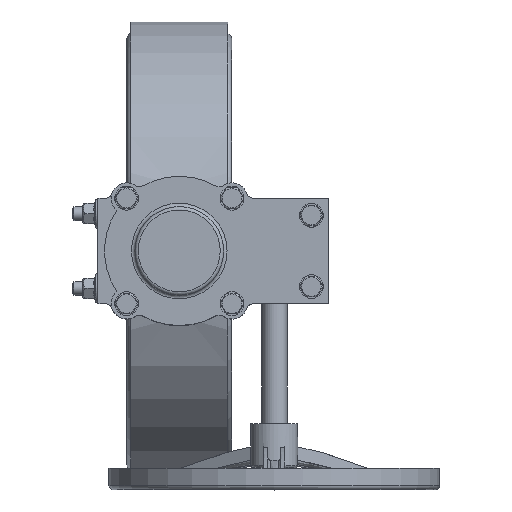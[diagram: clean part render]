
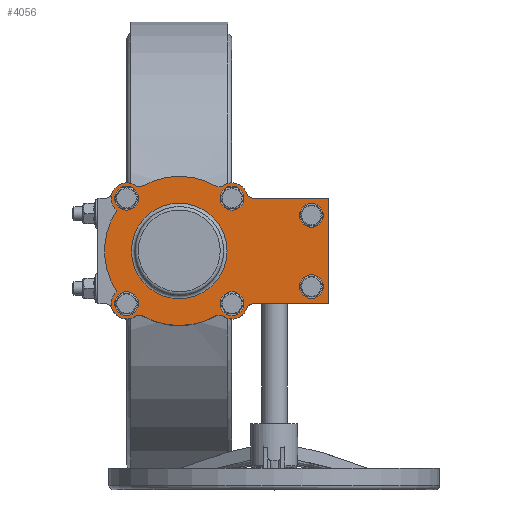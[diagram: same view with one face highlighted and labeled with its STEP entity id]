
A CAD part, top view. The second image highlights one B-rep face of the part: STEP entity #4056.
In plain terms, the highlighted planar face has unit normal (0, 0, 1).
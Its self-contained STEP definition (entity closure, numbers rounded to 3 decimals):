
#4056=ADVANCED_FACE('',(#8280,#8282,#8284,#8286,#8288,#8290,#8292,#8294),#8296,.T.);
#8280=FACE_BOUND('',#8281,.T.);
#8281=EDGE_LOOP('',(#15163,#15164,#15165,#15166,#15167,#15168,#15169,#15170,#15171,
#15172,#15173,#15174,#15175,#15176,#15177,#15178));
#8282=FACE_BOUND('',#8283,.T.);
#8283=EDGE_LOOP('',(#15179));
#8284=FACE_BOUND('',#8285,.T.);
#8285=EDGE_LOOP('',(#15180));
#8286=FACE_BOUND('',#8287,.T.);
#8287=EDGE_LOOP('',(#15181));
#8288=FACE_BOUND('',#8289,.T.);
#8289=EDGE_LOOP('',(#15182));
#8290=FACE_BOUND('',#8291,.T.);
#8291=EDGE_LOOP('',(#15183));
#8292=FACE_BOUND('',#8293,.T.);
#8293=EDGE_LOOP('',(#15184));
#8294=FACE_BOUND('',#8295,.T.);
#8295=EDGE_LOOP('',(#15185));
#8296=PLANE('',#8297);
#8297=AXIS2_PLACEMENT_3D('',#8298,#8299,#8300);
#8298=CARTESIAN_POINT('',(0.,0.,8.));
#8299=DIRECTION('',(0.,0.,1.));
#8300=DIRECTION('',(0.,1.,0.));
#15163=ORIENTED_EDGE('',*,*,#17054,.T.);
#15164=ORIENTED_EDGE('',*,*,#17055,.T.);
#15165=ORIENTED_EDGE('',*,*,#17056,.T.);
#15166=ORIENTED_EDGE('',*,*,#17057,.T.);
#15167=ORIENTED_EDGE('',*,*,#17058,.T.);
#15168=ORIENTED_EDGE('',*,*,#17059,.T.);
#15169=ORIENTED_EDGE('',*,*,#17060,.T.);
#15170=ORIENTED_EDGE('',*,*,#17061,.T.);
#15171=ORIENTED_EDGE('',*,*,#17062,.T.);
#15172=ORIENTED_EDGE('',*,*,#17063,.T.);
#15173=ORIENTED_EDGE('',*,*,#17064,.T.);
#15174=ORIENTED_EDGE('',*,*,#17065,.T.);
#15175=ORIENTED_EDGE('',*,*,#17066,.T.);
#15176=ORIENTED_EDGE('',*,*,#17067,.T.);
#15177=ORIENTED_EDGE('',*,*,#17068,.T.);
#15178=ORIENTED_EDGE('',*,*,#17069,.T.);
#15179=ORIENTED_EDGE('',*,*,#17070,.T.);
#15180=ORIENTED_EDGE('',*,*,#17071,.T.);
#15181=ORIENTED_EDGE('',*,*,#17072,.T.);
#15182=ORIENTED_EDGE('',*,*,#17073,.T.);
#15183=ORIENTED_EDGE('',*,*,#17074,.T.);
#15184=ORIENTED_EDGE('',*,*,#17075,.T.);
#15185=ORIENTED_EDGE('',*,*,#17076,.F.);
#17054=EDGE_CURVE('',#19401,#19402,#19403,.T.);
#17055=EDGE_CURVE('',#19402,#19404,#19405,.T.);
#17056=EDGE_CURVE('',#19404,#19406,#19407,.T.);
#17057=EDGE_CURVE('',#19406,#19408,#19409,.T.);
#17058=EDGE_CURVE('',#19408,#19410,#19411,.T.);
#17059=EDGE_CURVE('',#19410,#19412,#19413,.T.);
#17060=EDGE_CURVE('',#19412,#19414,#19415,.T.);
#17061=EDGE_CURVE('',#19414,#19416,#19417,.T.);
#17062=EDGE_CURVE('',#19416,#19418,#19419,.T.);
#17063=EDGE_CURVE('',#19418,#19420,#19421,.T.);
#17064=EDGE_CURVE('',#19420,#19422,#19423,.T.);
#17065=EDGE_CURVE('',#19422,#19424,#19425,.T.);
#17066=EDGE_CURVE('',#19424,#19426,#19427,.T.);
#17067=EDGE_CURVE('',#19426,#19428,#19429,.T.);
#17068=EDGE_CURVE('',#19428,#19430,#19431,.T.);
#17069=EDGE_CURVE('',#19430,#19401,#19432,.T.);
#17070=EDGE_CURVE('',#19433,#19433,#19434,.F.);
#17071=EDGE_CURVE('',#19435,#19435,#19436,.F.);
#17072=EDGE_CURVE('',#19437,#19437,#19438,.F.);
#17073=EDGE_CURVE('',#19439,#19439,#19440,.F.);
#17074=EDGE_CURVE('',#19441,#19441,#19442,.F.);
#17075=EDGE_CURVE('',#19443,#19443,#19444,.F.);
#17076=EDGE_CURVE('',#19445,#19445,#19446,.T.);
#19401=VERTEX_POINT('',#27149);
#19402=VERTEX_POINT('',#27150);
#19403=CIRCLE('',#27151,8.);
#19404=VERTEX_POINT('',#27155);
#19405=CIRCLE('',#27156,18.);
#19406=VERTEX_POINT('',#27160);
#19407=CIRCLE('',#27161,8.);
#19408=VERTEX_POINT('',#27165);
#19409=LINE('',#27166,#27167);
#19410=VERTEX_POINT('',#27169);
#19411=LINE('',#27170,#27171);
#19412=VERTEX_POINT('',#27173);
#19413=LINE('',#27174,#27175);
#19414=VERTEX_POINT('',#27177);
#19415=CIRCLE('',#27178,8.);
#19416=VERTEX_POINT('',#27182);
#19417=CIRCLE('',#27183,18.);
#19418=VERTEX_POINT('',#27187);
#19419=CIRCLE('',#27188,8.);
#19420=VERTEX_POINT('',#27192);
#19421=CIRCLE('',#27193,87.5);
#19422=VERTEX_POINT('',#27197);
#19423=CIRCLE('',#27198,8.);
#19424=VERTEX_POINT('',#27202);
#19425=CIRCLE('',#27203,18.);
#19426=VERTEX_POINT('',#27207);
#19427=CIRCLE('',#27208,87.5);
#19428=VERTEX_POINT('',#27212);
#19429=CIRCLE('',#27213,18.);
#19430=VERTEX_POINT('',#27217);
#19431=CIRCLE('',#27218,8.);
#19432=CIRCLE('',#27222,87.5);
#19433=VERTEX_POINT('',#27226);
#19434=CIRCLE('',#27227,8.);
#19435=VERTEX_POINT('',#27231);
#19436=CIRCLE('',#27232,8.);
#19437=VERTEX_POINT('',#27236);
#19438=CIRCLE('',#27237,8.);
#19439=VERTEX_POINT('',#27241);
#19440=CIRCLE('',#27242,8.);
#19441=VERTEX_POINT('',#27246);
#19442=CIRCLE('',#27247,8.);
#19443=VERTEX_POINT('',#27251);
#19444=CIRCLE('',#27252,8.);
#19445=VERTEX_POINT('',#27256);
#19446=CIRCLE('',#27257,56.);
#27149=CARTESIAN_POINT('',(76.196,43.016,8.));
#27150=CARTESIAN_POINT('',(76.612,51.541,8.));
#27151=AXIS2_PLACEMENT_3D('',#27152,#27153,#27154);
#27152=CARTESIAN_POINT('',(83.163,46.949,8.));
#27153=DIRECTION('',(0.,0.,-1.));
#27154=DIRECTION('',(-0.871,-0.492,0.));
#27155=CARTESIAN_POINT('',(67.41,78.999,8.));
#27156=AXIS2_PLACEMENT_3D('',#27157,#27158,#27159);
#27157=CARTESIAN_POINT('',(61.872,61.872,8.));
#27158=DIRECTION('',(0.,0.,1.));
#27159=DIRECTION('',(0.819,-0.574,0.));
#27160=CARTESIAN_POINT('',(61.872,86.61,8.));
#27161=AXIS2_PLACEMENT_3D('',#27162,#27163,#27164);
#27162=CARTESIAN_POINT('',(69.872,86.61,8.));
#27163=DIRECTION('',(0.,0.,-1.));
#27164=DIRECTION('',(-0.308,-0.951,0.));
#27165=CARTESIAN_POINT('',(61.872,175.,8.));
#27166=CARTESIAN_POINT('',(61.872,86.61,8.));
#27167=VECTOR('',#27168,1.);
#27168=DIRECTION('',(0.,1.,0.));
#27169=CARTESIAN_POINT('',(-61.872,175.,8.));
#27170=CARTESIAN_POINT('',(61.872,175.,8.));
#27171=VECTOR('',#27172,1.);
#27172=DIRECTION('',(-1.,0.,0.));
#27173=CARTESIAN_POINT('',(-61.872,86.61,8.));
#27174=CARTESIAN_POINT('',(-61.872,175.,8.));
#27175=VECTOR('',#27176,1.);
#27176=DIRECTION('',(0.,-1.,0.));
#27177=CARTESIAN_POINT('',(-67.41,78.999,8.));
#27178=AXIS2_PLACEMENT_3D('',#27179,#27180,#27181);
#27179=CARTESIAN_POINT('',(-69.872,86.61,8.));
#27180=DIRECTION('',(0.,0.,-1.));
#27181=DIRECTION('',(1.,0.,0.));
#27182=CARTESIAN_POINT('',(-76.612,51.541,8.));
#27183=AXIS2_PLACEMENT_3D('',#27184,#27185,#27186);
#27184=CARTESIAN_POINT('',(-61.872,61.872,8.));
#27185=DIRECTION('',(0.,0.,1.));
#27186=DIRECTION('',(-0.308,0.951,0.));
#27187=CARTESIAN_POINT('',(-76.196,43.016,8.));
#27188=AXIS2_PLACEMENT_3D('',#27189,#27190,#27191);
#27189=CARTESIAN_POINT('',(-83.163,46.949,8.));
#27190=DIRECTION('',(0.,0.,-1.));
#27191=DIRECTION('',(0.819,0.574,0.));
#27192=CARTESIAN_POINT('',(-76.196,-43.016,8.));
#27193=AXIS2_PLACEMENT_3D('',#27194,#27195,#27196);
#27194=CARTESIAN_POINT('',(0.,0.,8.));
#27195=DIRECTION('',(0.,0.,1.));
#27196=DIRECTION('',(-0.871,0.492,0.));
#27197=CARTESIAN_POINT('',(-76.612,-51.541,8.));
#27198=AXIS2_PLACEMENT_3D('',#27199,#27200,#27201);
#27199=CARTESIAN_POINT('',(-83.163,-46.949,8.));
#27200=DIRECTION('',(0.,0.,-1.));
#27201=DIRECTION('',(0.871,0.492,0.));
#27202=CARTESIAN_POINT('',(-47.902,-73.223,8.));
#27203=AXIS2_PLACEMENT_3D('',#27204,#27205,#27206);
#27204=CARTESIAN_POINT('',(-61.872,-61.872,8.));
#27205=DIRECTION('',(0.,0.,1.));
#27206=DIRECTION('',(-0.819,0.574,0.));
#27207=CARTESIAN_POINT('',(47.902,-73.223,8.));
#27208=AXIS2_PLACEMENT_3D('',#27209,#27210,#27211);
#27209=CARTESIAN_POINT('',(0.,0.,8.));
#27210=DIRECTION('',(0.,0.,1.));
#27211=DIRECTION('',(-0.547,-0.837,0.));
#27212=CARTESIAN_POINT('',(76.612,-51.541,8.));
#27213=AXIS2_PLACEMENT_3D('',#27214,#27215,#27216);
#27214=CARTESIAN_POINT('',(61.872,-61.872,8.));
#27215=DIRECTION('',(0.,0.,1.));
#27216=DIRECTION('',(-0.776,-0.631,0.));
#27217=CARTESIAN_POINT('',(76.196,-43.016,8.));
#27218=AXIS2_PLACEMENT_3D('',#27219,#27220,#27221);
#27219=CARTESIAN_POINT('',(83.163,-46.949,8.));
#27220=DIRECTION('',(0.,0.,-1.));
#27221=DIRECTION('',(-0.819,-0.574,0.));
#27222=AXIS2_PLACEMENT_3D('',#27223,#27224,#27225);
#27223=CARTESIAN_POINT('',(0.,0.,8.));
#27224=DIRECTION('',(0.,0.,1.));
#27225=DIRECTION('',(0.871,-0.492,0.));
#27226=CARTESIAN_POINT('',(-33.872,155.,8.));
#27227=AXIS2_PLACEMENT_3D('',#27228,#27229,#27230);
#27228=CARTESIAN_POINT('',(-41.872,155.,8.));
#27229=DIRECTION('',(0.,0.,1.));
#27230=DIRECTION('',(1.,0.,0.));
#27231=CARTESIAN_POINT('',(49.872,155.,8.));
#27232=AXIS2_PLACEMENT_3D('',#27233,#27234,#27235);
#27233=CARTESIAN_POINT('',(41.872,155.,8.));
#27234=DIRECTION('',(0.,0.,1.));
#27235=DIRECTION('',(1.,0.,0.));
#27236=CARTESIAN_POINT('',(69.872,-61.872,8.));
#27237=AXIS2_PLACEMENT_3D('',#27238,#27239,#27240);
#27238=CARTESIAN_POINT('',(61.872,-61.872,8.));
#27239=DIRECTION('',(0.,0.,1.));
#27240=DIRECTION('',(1.,0.,0.));
#27241=CARTESIAN_POINT('',(-61.872,-69.872,8.));
#27242=AXIS2_PLACEMENT_3D('',#27243,#27244,#27245);
#27243=CARTESIAN_POINT('',(-61.872,-61.872,8.));
#27244=DIRECTION('',(0.,0.,1.));
#27245=DIRECTION('',(0.,-1.,0.));
#27246=CARTESIAN_POINT('',(-69.872,61.872,8.));
#27247=AXIS2_PLACEMENT_3D('',#27248,#27249,#27250);
#27248=CARTESIAN_POINT('',(-61.872,61.872,8.));
#27249=DIRECTION('',(0.,0.,1.));
#27250=DIRECTION('',(-1.,0.,0.));
#27251=CARTESIAN_POINT('',(61.872,69.872,8.));
#27252=AXIS2_PLACEMENT_3D('',#27253,#27254,#27255);
#27253=CARTESIAN_POINT('',(61.872,61.872,8.));
#27254=DIRECTION('',(0.,0.,1.));
#27255=DIRECTION('',(0.,1.,0.));
#27256=CARTESIAN_POINT('',(-56.,0.,8.));
#27257=AXIS2_PLACEMENT_3D('',#27258,#27259,#27260);
#27258=CARTESIAN_POINT('',(0.,0.,8.));
#27259=DIRECTION('',(0.,0.,1.));
#27260=DIRECTION('',(-1.,0.,0.));
